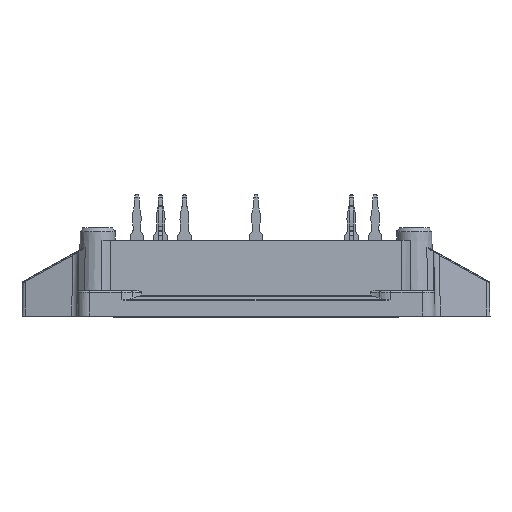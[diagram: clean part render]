
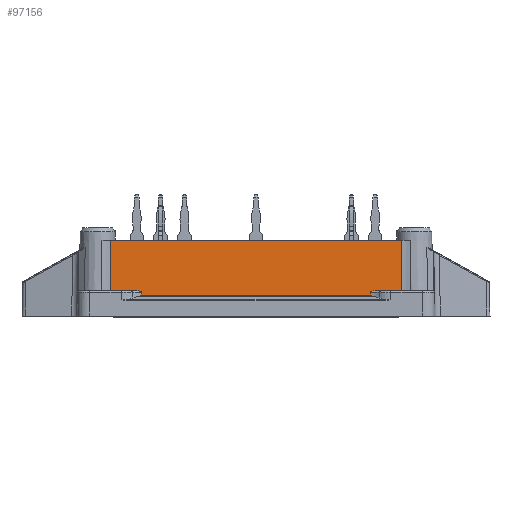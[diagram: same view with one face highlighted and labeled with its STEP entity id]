
A CAD part, front view. The second image highlights one B-rep face of the part: STEP entity #97156.
In plain terms, the highlighted planar face has unit normal (0, -1, 0.018).
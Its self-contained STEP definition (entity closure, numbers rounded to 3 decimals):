
#1757=PLANE('',#102266);
#6926=LINE('',#130825,#13766);
#7682=LINE('',#134702,#14522);
#7683=LINE('',#134718,#14523);
#7684=LINE('',#134729,#14524);
#13766=VECTOR('',#109122,1000.);
#14522=VECTOR('',#111526,1000.);
#14523=VECTOR('',#111527,1000.);
#14524=VECTOR('',#111528,1000.);
#22522=ORIENTED_EDGE('',*,*,#43125,.F.);
#22523=ORIENTED_EDGE('',*,*,#43126,.T.);
#22524=ORIENTED_EDGE('',*,*,#43127,.F.);
#22525=ORIENTED_EDGE('',*,*,#43128,.T.);
#22526=ORIENTED_EDGE('',*,*,#43129,.T.);
#22527=ORIENTED_EDGE('',*,*,#43130,.T.);
#22528=ORIENTED_EDGE('',*,*,#41510,.F.);
#22529=ORIENTED_EDGE('',*,*,#43131,.T.);
#22530=ORIENTED_EDGE('',*,*,#43132,.F.);
#22531=ORIENTED_EDGE('',*,*,#43133,.T.);
#41510=EDGE_CURVE('',#51854,#51855,#6926,.T.);
#43125=EDGE_CURVE('',#53388,#53389,#58004,.T.);
#43126=EDGE_CURVE('',#53388,#53390,#7682,.T.);
#43127=EDGE_CURVE('',#53391,#53390,#58005,.T.);
#43128=EDGE_CURVE('',#53391,#53392,#58006,.T.);
#43129=EDGE_CURVE('',#53392,#53393,#7683,.T.);
#43130=EDGE_CURVE('',#53393,#51855,#58007,.T.);
#43131=EDGE_CURVE('',#51854,#53394,#58008,.T.);
#43132=EDGE_CURVE('',#53395,#53394,#7684,.T.);
#43133=EDGE_CURVE('',#53395,#53389,#58009,.T.);
#51854=VERTEX_POINT('',#130824);
#51855=VERTEX_POINT('',#130826);
#53388=VERTEX_POINT('',#134700);
#53389=VERTEX_POINT('',#134701);
#53390=VERTEX_POINT('',#134703);
#53391=VERTEX_POINT('',#134708);
#53392=VERTEX_POINT('',#134717);
#53393=VERTEX_POINT('',#134719);
#53394=VERTEX_POINT('',#134728);
#53395=VERTEX_POINT('',#134730);
#58004=B_SPLINE_CURVE_WITH_KNOTS('',3,(#134696,#134697,#134698,#134699),
 .UNSPECIFIED.,.F.,.F.,(4,4),(0.001,0.001),
 .UNSPECIFIED.);
#58005=B_SPLINE_CURVE_WITH_KNOTS('',3,(#134704,#134705,#134706,#134707),
 .UNSPECIFIED.,.F.,.F.,(4,4),(0.,0.001),
 .UNSPECIFIED.);
#58006=B_SPLINE_CURVE_WITH_KNOTS('',3,(#134709,#134710,#134711,#134712,
#134713,#134714,#134715,#134716),.UNSPECIFIED.,.F.,.F.,(4,1,1,1,1,4),(0.,
0.,0.,0.,0.001,
0.001),.UNSPECIFIED.);
#58007=B_SPLINE_CURVE_WITH_KNOTS('',3,(#134720,#134721,#134722,#134723),
 .UNSPECIFIED.,.F.,.F.,(4,4),(0.,0.007),.UNSPECIFIED.);
#58008=B_SPLINE_CURVE_WITH_KNOTS('',3,(#134724,#134725,#134726,#134727),
 .UNSPECIFIED.,.F.,.F.,(4,4),(0.,0.007),
 .UNSPECIFIED.);
#58009=B_SPLINE_CURVE_WITH_KNOTS('',3,(#134731,#134732,#134733,#134734,
#134735,#134736,#134737),.UNSPECIFIED.,.F.,.F.,(4,1,1,1,4),(0.,0.,
0.001,0.001,0.001),
 .UNSPECIFIED.);
#58433=EDGE_LOOP('',(#22522,#22523,#22524,#22525,#22526,#22527,#22528,#22529,
#22530,#22531));
#62869=FACE_BOUND('',#58433,.T.);
#97156=ADVANCED_FACE('',(#62869),#1757,.T.);
#102266=AXIS2_PLACEMENT_3D('',#134695,#111524,#111525);
#109122=DIRECTION('',(1.,0.,0.));
#111524=DIRECTION('',(0.,-1.,0.017));
#111525=DIRECTION('',(0.,-0.017,-1.));
#111526=DIRECTION('',(1.,0.,0.));
#111527=DIRECTION('',(1.,0.,0.));
#111528=DIRECTION('',(-1.,0.,0.));
#130824=CARTESIAN_POINT('',(-19.525,-27.653,10.2));
#130825=CARTESIAN_POINT('',(-26.5,-27.653,10.2));
#130826=CARTESIAN_POINT('',(19.525,-27.653,10.2));
#134695=CARTESIAN_POINT('',(-26.5,-27.78,2.9));
#134696=CARTESIAN_POINT('',(-15.378,-27.781,2.822));
#134697=CARTESIAN_POINT('',(-15.379,-27.779,2.949));
#134698=CARTESIAN_POINT('',(-15.379,-27.777,3.076));
#134699=CARTESIAN_POINT('',(-15.379,-27.775,3.203));
#134700=CARTESIAN_POINT('',(-15.378,-27.781,2.822));
#134701=CARTESIAN_POINT('',(-15.379,-27.775,3.203));
#134702=CARTESIAN_POINT('',(-26.5,-27.781,2.822));
#134703=CARTESIAN_POINT('',(15.378,-27.781,2.822));
#134704=CARTESIAN_POINT('',(15.379,-27.775,3.203));
#134705=CARTESIAN_POINT('',(15.379,-27.777,3.076));
#134706=CARTESIAN_POINT('',(15.379,-27.779,2.949));
#134707=CARTESIAN_POINT('',(15.378,-27.781,2.822));
#134708=CARTESIAN_POINT('',(15.379,-27.775,3.203));
#134709=CARTESIAN_POINT('',(15.379,-27.775,3.203));
#134710=CARTESIAN_POINT('',(15.379,-27.774,3.235));
#134711=CARTESIAN_POINT('',(15.441,-27.773,3.274));
#134712=CARTESIAN_POINT('',(15.55,-27.773,3.32));
#134713=CARTESIAN_POINT('',(15.702,-27.772,3.361));
#134714=CARTESIAN_POINT('',(15.882,-27.771,3.392));
#134715=CARTESIAN_POINT('',(16.005,-27.771,3.4));
#134716=CARTESIAN_POINT('',(16.067,-27.771,3.4));
#134717=CARTESIAN_POINT('',(16.067,-27.771,3.4));
#134718=CARTESIAN_POINT('',(-26.5,-27.771,3.4));
#134719=CARTESIAN_POINT('',(19.511,-27.771,3.4));
#134720=CARTESIAN_POINT('',(19.511,-27.771,3.4));
#134721=CARTESIAN_POINT('',(19.516,-27.732,5.667));
#134722=CARTESIAN_POINT('',(19.521,-27.692,7.933));
#134723=CARTESIAN_POINT('',(19.525,-27.653,10.2));
#134724=CARTESIAN_POINT('',(-19.525,-27.653,10.2));
#134725=CARTESIAN_POINT('',(-19.521,-27.692,7.933));
#134726=CARTESIAN_POINT('',(-19.516,-27.732,5.667));
#134727=CARTESIAN_POINT('',(-19.511,-27.771,3.4));
#134728=CARTESIAN_POINT('',(-19.511,-27.771,3.4));
#134729=CARTESIAN_POINT('',(-26.5,-27.771,3.4));
#134730=CARTESIAN_POINT('',(-16.067,-27.771,3.4));
#134731=CARTESIAN_POINT('',(-16.067,-27.771,3.4));
#134732=CARTESIAN_POINT('',(-15.944,-27.771,3.4));
#134733=CARTESIAN_POINT('',(-15.762,-27.772,3.377));
#134734=CARTESIAN_POINT('',(-15.549,-27.773,3.32));
#134735=CARTESIAN_POINT('',(-15.44,-27.773,3.273));
#134736=CARTESIAN_POINT('',(-15.379,-27.774,3.235));
#134737=CARTESIAN_POINT('',(-15.379,-27.775,3.203));
